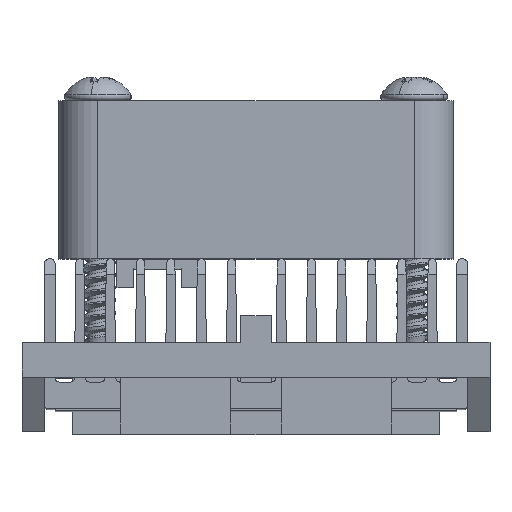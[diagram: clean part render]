
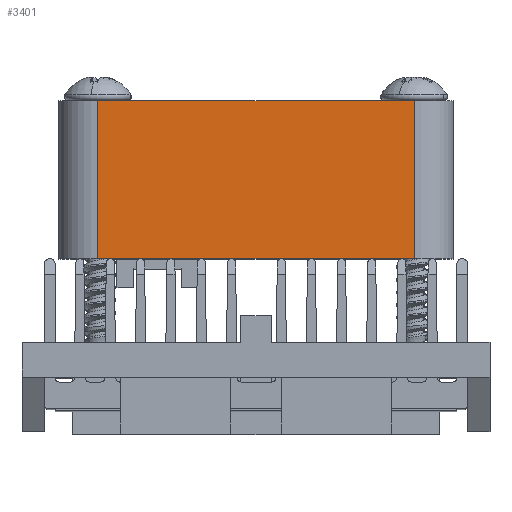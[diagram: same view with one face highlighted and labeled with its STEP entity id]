
A CAD part, top view. The second image highlights one B-rep face of the part: STEP entity #3401.
In plain terms, the highlighted planar face has unit normal (0, 0, 1).
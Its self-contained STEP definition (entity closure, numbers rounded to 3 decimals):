
#1324 = DIRECTION ( 'NONE',  ( 0., -1., 0. ) ) ;
#1894 = DIRECTION ( 'NONE',  ( -1., 0., 0. ) ) ;
#3401 = ADVANCED_FACE ( 'NONE', ( #39512 ), #28873, .F. ) ;
#4593 = ORIENTED_EDGE ( 'NONE', *, *, #6338, .F. ) ;
#5331 = VECTOR ( 'NONE', #1324, 1000. ) ;
#6338 = EDGE_CURVE ( 'NONE', #34448, #23304, #63773, .T. ) ;
#6428 = CARTESIAN_POINT ( 'NONE',  ( -10., 19.5, 12.5 ) ) ;
#6686 = LINE ( 'NONE', #27551, #28297 ) ;
#11774 = CARTESIAN_POINT ( 'NONE',  ( 10., 19.5, 12.5 ) ) ;
#14685 = VECTOR ( 'NONE', #62438, 1000. ) ;
#16389 = CARTESIAN_POINT ( 'NONE',  ( -10., 19.5, 12.5 ) ) ;
#16471 = ORIENTED_EDGE ( 'NONE', *, *, #46053, .F. ) ;
#20959 = VERTEX_POINT ( 'NONE', #30410 ) ;
#21485 = LINE ( 'NONE', #6428, #5331 ) ;
#23304 = VERTEX_POINT ( 'NONE', #11774 ) ;
#25354 = VERTEX_POINT ( 'NONE', #63839 ) ;
#27551 = CARTESIAN_POINT ( 'NONE',  ( 10., 19.5, 12.5 ) ) ;
#28297 = VECTOR ( 'NONE', #57279, 1000. ) ;
#28873 = PLANE ( 'NONE',  #55727 ) ;
#30410 = CARTESIAN_POINT ( 'NONE',  ( 10., 9.5, 12.5 ) ) ;
#32357 = CARTESIAN_POINT ( 'NONE',  ( 10., 19.5, 12.5 ) ) ;
#34448 = VERTEX_POINT ( 'NONE', #16389 ) ;
#36186 = DIRECTION ( 'NONE',  ( 1., 0., 0. ) ) ;
#38053 = EDGE_CURVE ( 'NONE', #34448, #25354, #21485, .T. ) ;
#39054 = ORIENTED_EDGE ( 'NONE', *, *, #41439, .T. ) ;
#39512 = FACE_OUTER_BOUND ( 'NONE', #46653, .T. ) ;
#41439 = EDGE_CURVE ( 'NONE', #25354, #20959, #56326, .T. ) ;
#46053 = EDGE_CURVE ( 'NONE', #23304, #20959, #6686, .T. ) ;
#46653 = EDGE_LOOP ( 'NONE', ( #39054, #16471, #4593, #48376 ) ) ;
#48376 = ORIENTED_EDGE ( 'NONE', *, *, #38053, .T. ) ;
#53843 = CARTESIAN_POINT ( 'NONE',  ( 10., 19.5, 12.5 ) ) ;
#55727 = AXIS2_PLACEMENT_3D ( 'NONE', #53843, #59618, #1894 ) ;
#55969 = VECTOR ( 'NONE', #36186, 1000. ) ;
#56326 = LINE ( 'NONE', #61446, #55969 ) ;
#57279 = DIRECTION ( 'NONE',  ( 0., -1., 0. ) ) ;
#59618 = DIRECTION ( 'NONE',  ( 0., 0., -1. ) ) ;
#61446 = CARTESIAN_POINT ( 'NONE',  ( 10., 9.5, 12.5 ) ) ;
#62438 = DIRECTION ( 'NONE',  ( 1., 0., 0. ) ) ;
#63773 = LINE ( 'NONE', #32357, #14685 ) ;
#63839 = CARTESIAN_POINT ( 'NONE',  ( -10., 9.5, 12.5 ) ) ;
